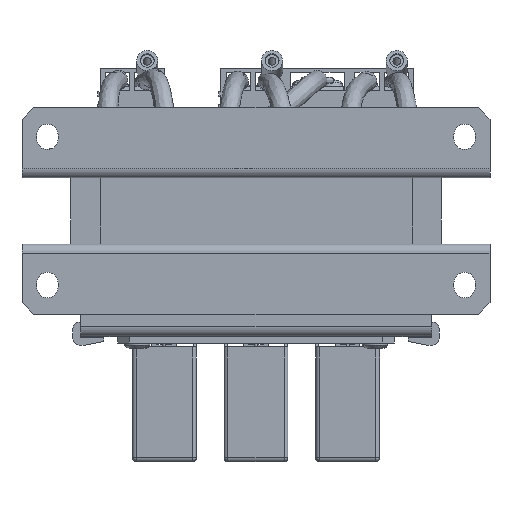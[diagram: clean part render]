
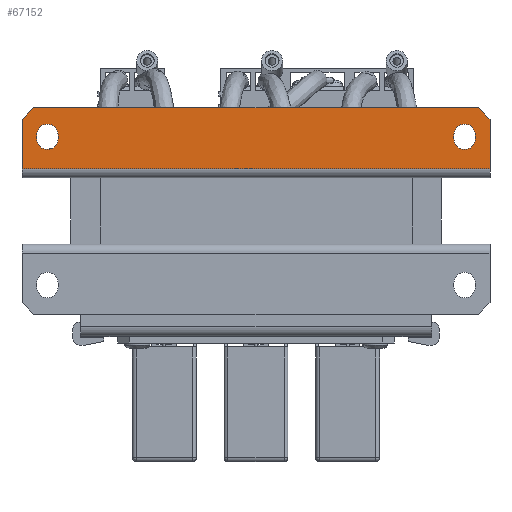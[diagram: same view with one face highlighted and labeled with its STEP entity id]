
A CAD part, front view. The second image highlights one B-rep face of the part: STEP entity #67152.
In plain terms, the highlighted planar face has unit normal (0, -1, 0).
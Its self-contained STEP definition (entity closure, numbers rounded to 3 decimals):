
#452=FACE_BOUND('',#9572,.T.);
#453=FACE_BOUND('',#9573,.T.);
#2849=CIRCLE('',#71894,2.75);
#2850=CIRCLE('',#71897,2.75);
#2851=CIRCLE('',#71900,2.75);
#2852=CIRCLE('',#71903,2.75);
#5723=FACE_OUTER_BOUND('',#9571,.T.);
#9571=EDGE_LOOP('',(#47871,#47872,#47873,#47874,#47875,#47876));
#9572=EDGE_LOOP('',(#47877,#47878,#47879,#47880));
#9573=EDGE_LOOP('',(#47881,#47882,#47883,#47884));
#14344=LINE('',#103605,#20949);
#14348=LINE('',#103612,#20953);
#14358=LINE('',#103640,#20963);
#14360=LINE('',#103644,#20965);
#14362=LINE('',#103649,#20967);
#14366=LINE('',#103658,#20971);
#14368=LINE('',#103665,#20973);
#14372=LINE('',#103674,#20977);
#14375=LINE('',#103689,#20980);
#14376=LINE('',#103691,#20981);
#20949=VECTOR('',#82236,10.);
#20953=VECTOR('',#82242,10.);
#20963=VECTOR('',#82264,10.);
#20965=VECTOR('',#82268,10.);
#20967=VECTOR('',#82272,10.);
#20971=VECTOR('',#82282,10.);
#20973=VECTOR('',#82290,10.);
#20977=VECTOR('',#82300,10.);
#20980=VECTOR('',#82325,10.);
#20981=VECTOR('',#82328,10.);
#27616=VERTEX_POINT('',#103602);
#27617=VERTEX_POINT('',#103604);
#27619=VERTEX_POINT('',#103610);
#27631=VERTEX_POINT('',#103638);
#27632=VERTEX_POINT('',#103642);
#27633=VERTEX_POINT('',#103646);
#27634=VERTEX_POINT('',#103648);
#27635=VERTEX_POINT('',#103652);
#27636=VERTEX_POINT('',#103656);
#27637=VERTEX_POINT('',#103662);
#27638=VERTEX_POINT('',#103664);
#27639=VERTEX_POINT('',#103668);
#27640=VERTEX_POINT('',#103672);
#27641=VERTEX_POINT('',#103685);
#35081=EDGE_CURVE('',#27616,#27617,#14344,.T.);
#35085=EDGE_CURVE('',#27619,#27616,#14348,.T.);
#35099=EDGE_CURVE('',#27631,#27619,#14358,.T.);
#35101=EDGE_CURVE('',#27632,#27631,#14360,.T.);
#35103=EDGE_CURVE('',#27634,#27633,#14362,.T.);
#35106=EDGE_CURVE('',#27633,#27635,#2849,.T.);
#35108=EDGE_CURVE('',#27635,#27636,#14366,.T.);
#35109=EDGE_CURVE('',#27636,#27634,#2850,.T.);
#35111=EDGE_CURVE('',#27638,#27637,#14368,.T.);
#35114=EDGE_CURVE('',#27637,#27639,#2851,.T.);
#35116=EDGE_CURVE('',#27639,#27640,#14372,.T.);
#35117=EDGE_CURVE('',#27640,#27638,#2852,.T.);
#35124=EDGE_CURVE('',#27632,#27641,#14375,.T.);
#35125=EDGE_CURVE('',#27617,#27641,#14376,.T.);
#47871=ORIENTED_EDGE('',*,*,#35081,.F.);
#47872=ORIENTED_EDGE('',*,*,#35085,.F.);
#47873=ORIENTED_EDGE('',*,*,#35099,.F.);
#47874=ORIENTED_EDGE('',*,*,#35101,.F.);
#47875=ORIENTED_EDGE('',*,*,#35124,.T.);
#47876=ORIENTED_EDGE('',*,*,#35125,.F.);
#47877=ORIENTED_EDGE('',*,*,#35103,.T.);
#47878=ORIENTED_EDGE('',*,*,#35106,.T.);
#47879=ORIENTED_EDGE('',*,*,#35108,.T.);
#47880=ORIENTED_EDGE('',*,*,#35109,.T.);
#47881=ORIENTED_EDGE('',*,*,#35111,.T.);
#47882=ORIENTED_EDGE('',*,*,#35114,.T.);
#47883=ORIENTED_EDGE('',*,*,#35116,.T.);
#47884=ORIENTED_EDGE('',*,*,#35117,.T.);
#61624=PLANE('',#71914);
#67152=ADVANCED_FACE('',(#5723,#452,#453),#61624,.F.);
#71894=AXIS2_PLACEMENT_3D('',#103654,#82277,#82278);
#71897=AXIS2_PLACEMENT_3D('',#103660,#82285,#82286);
#71900=AXIS2_PLACEMENT_3D('',#103670,#82295,#82296);
#71903=AXIS2_PLACEMENT_3D('',#103676,#82303,#82304);
#71914=AXIS2_PLACEMENT_3D('',#103692,#82329,#82330);
#82236=DIRECTION('',(0.707,0.,-0.707));
#82242=DIRECTION('',(1.,0.,0.));
#82264=DIRECTION('',(0.707,0.,0.707));
#82268=DIRECTION('',(0.,0.,1.));
#82272=DIRECTION('',(0.,0.,-1.));
#82277=DIRECTION('center_axis',(0.,1.,0.));
#82278=DIRECTION('ref_axis',(0.,0.,
1.));
#82282=DIRECTION('',(0.,0.,1.));
#82285=DIRECTION('center_axis',(0.,1.,0.));
#82286=DIRECTION('ref_axis',(1.,0.,0.));
#82290=DIRECTION('',(0.,0.,1.));
#82295=DIRECTION('center_axis',(0.,1.,0.));
#82296=DIRECTION('ref_axis',(0.,0.,
-1.));
#82300=DIRECTION('',(0.,0.,-1.));
#82303=DIRECTION('center_axis',(0.,1.,0.));
#82304=DIRECTION('ref_axis',(-1.,0.,0.));
#82325=DIRECTION('',(1.,0.,0.));
#82328=DIRECTION('',(0.,0.,-1.));
#82329=DIRECTION('center_axis',(0.,1.,0.));
#82330=DIRECTION('ref_axis',(1.,0.,0.));
#103602=CARTESIAN_POINT('',(58.459,-64.43,15.113));
#103604=CARTESIAN_POINT('',(61.459,-64.43,12.113));
#103605=CARTESIAN_POINT('',(47.209,-64.43,26.363));
#103610=CARTESIAN_POINT('',(-55.541,-64.43,15.113));
#103612=CARTESIAN_POINT('',(-58.541,-64.43,15.113));
#103638=CARTESIAN_POINT('',(-58.541,-64.43,12.113));
#103640=CARTESIAN_POINT('',(-44.291,-64.43,26.363));
#103642=CARTESIAN_POINT('',(-58.541,-64.43,-0.587));
#103644=CARTESIAN_POINT('',(-58.541,-64.43,-2.887));
#103646=CARTESIAN_POINT('',(-49.291,-64.43,7.113));
#103648=CARTESIAN_POINT('',(-49.291,-64.43,8.113));
#103649=CARTESIAN_POINT('',(-49.291,-64.43,6.613));
#103652=CARTESIAN_POINT('',(-54.791,-64.43,7.113));
#103654=CARTESIAN_POINT('Origin',(-52.041,-64.43,7.113));
#103656=CARTESIAN_POINT('',(-54.791,-64.43,8.113));
#103658=CARTESIAN_POINT('',(-54.791,-64.43,7.113));
#103660=CARTESIAN_POINT('Origin',(-52.041,-64.43,8.113));
#103662=CARTESIAN_POINT('',(52.209,-64.43,8.113));
#103664=CARTESIAN_POINT('',(52.209,-64.43,7.113));
#103665=CARTESIAN_POINT('',(52.209,-64.43,7.113));
#103668=CARTESIAN_POINT('',(57.709,-64.43,8.113));
#103670=CARTESIAN_POINT('Origin',(54.959,-64.43,8.113));
#103672=CARTESIAN_POINT('',(57.709,-64.43,7.113));
#103674=CARTESIAN_POINT('',(57.709,-64.43,6.613));
#103676=CARTESIAN_POINT('Origin',(54.959,-64.43,7.113));
#103685=CARTESIAN_POINT('',(61.459,-64.43,-0.587));
#103689=CARTESIAN_POINT('',(31.459,-64.43,-0.587));
#103691=CARTESIAN_POINT('',(61.459,-64.43,15.113));
#103692=CARTESIAN_POINT('Origin',(1.459,-64.43,6.113));
